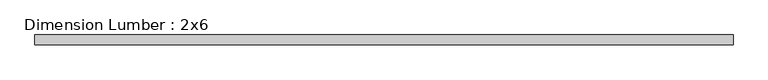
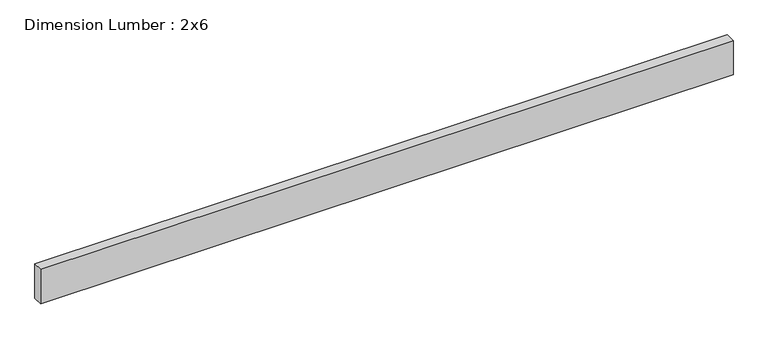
"""IFC4 building model written with IfcOpenShell, lengths in millimetres: beam geometry, Dimension Lumber : 2x6."""

import ifcopenshell
import ifcopenshell.guid

model = None  # the IFC model being written
_history = None  # IfcOwnerHistory: only IFC2X3 demands one
_inside = {}  # id of a spatial element -> (the spatial element, [elements in it])
_under = {}  # id of a project, library or spatial element -> (it, [spatial elements below it])
_declared = {}  # id of a project -> (the project, [libraries it declares])
_typed = {}  # id of a type object -> (the type object, [elements of that type])
_made_of = {}  # id of a material, layer set ... -> (it, [elements and type objects made of it])


def new_model(schema):
    """Start an empty IFC model of exactly this schema.

    Asked for "IFC4X3", IfcOpenShell would pick the latest addendum, in which some entities
    have other attributes; the version numbers below select the first issue.
    IFC2X3 requires an IfcOwnerHistory on every rooted entity: one is made here for all.
    """
    global model, _history
    if schema == "IFC4X3":
        model = ifcopenshell.file(schema_version=(4, 3, 0, 0))
    else:
        model = ifcopenshell.file(schema=schema)
    _inside.clear()
    _under.clear()
    _declared.clear()
    _typed.clear()
    _made_of.clear()
    _history = None
    if model.schema == "IFC2X3":
        org = make("IfcOrganization", Name="unknown")
        user = make(
            "IfcPersonAndOrganization",
            ThePerson=make("IfcPerson", FamilyName="unknown"),
            TheOrganization=org,
        )
        app = make(
            "IfcApplication",
            ApplicationDeveloper=org,
            Version="unknown",
            ApplicationFullName="unknown",
            ApplicationIdentifier="unknown",
        )
        _history = make(
            "IfcOwnerHistory",
            OwningUser=user,
            OwningApplication=app,
            ChangeAction="ADDED",
            CreationDate=0,
        )
    return model


def make(cls, **values):
    """One entity of the class cls with the attributes given. An attribute that is None is left unset."""
    return model.create_entity(
        cls, **{name: value for name, value in values.items() if value is not None}
    )


def rooted(cls, **values):
    """An entity with a GlobalId (a new one), such as an element, a storey or a relation."""
    return make(cls, GlobalId=ifcopenshell.guid.new(), OwnerHistory=_history, **values)


def si_unit(unit_type, name, prefix=None):
    """IfcSIUnit, for example si_unit("LENGTHUNIT", "METRE", prefix="MILLI")."""
    return make("IfcSIUnit", UnitType=unit_type, Prefix=prefix, Name=name)


def assignment(units):
    """IfcUnitAssignment: the units of a project."""
    return None if units is None else make("IfcUnitAssignment", Units=units)


def point(xyz):
    """IfcCartesianPoint."""
    return None if xyz is None else make("IfcCartesianPoint", Coordinates=xyz)


def direction(xyz):
    """IfcDirection."""
    return None if xyz is None else make("IfcDirection", DirectionRatios=xyz)


def frame(location, z_axis=None, x_axis=None):
    """IfcAxis2Placement3D, a coordinate frame: its origin and axes. An axis left out is left unset."""
    return make(
        "IfcAxis2Placement3D",
        Location=point(location),
        Axis=direction(z_axis),
        RefDirection=direction(x_axis),
    )


def origin():
    """The frame at (0, 0, 0) with its axes left unset."""
    return frame((0.0, 0.0, 0.0))


def place(relative_to, where):
    """IfcLocalPlacement: puts the frame where relative to a parent placement (None: the world)."""
    return make(
        "IfcLocalPlacement", PlacementRelTo=relative_to, RelativePlacement=where
    )


def context(
    kind, dimensions, precision=None, world=None, true_north=None, identifier=None
):
    """IfcGeometricRepresentationContext, for example the 3D "Model" context."""
    return make(
        "IfcGeometricRepresentationContext",
        ContextIdentifier=identifier,
        ContextType=kind,
        CoordinateSpaceDimension=dimensions,
        Precision=precision,
        WorldCoordinateSystem=world,
        TrueNorth=true_north,
    )


def project(units=None, contexts=None):
    """IfcProject with its units and contexts."""
    return rooted(
        "IfcProject",
        Name="project",
        RepresentationContexts=contexts,
        UnitsInContext=assignment(units),
    )


def spatial(cls, under=None, at=None, **own):
    """A site, building, storey or space (cls), placed at a placement, below another one or the project."""
    s = rooted(cls, ObjectPlacement=at, **own)
    if under is not None:
        _under.setdefault(under.id(), (under, []))[1].append(s)
    return s


def polyline(points):
    """IfcPolyline through the points."""
    return make("IfcPolyline", Points=[point(p) for p in points])


def outline(outer, holes=None, kind="AREA"):
    """IfcArbitraryClosedProfileDef: a profile drawn as a closed curve; with holes, ...WithVoids."""
    if holes is None:
        return make("IfcArbitraryClosedProfileDef", ProfileType=kind, OuterCurve=outer)
    return make(
        "IfcArbitraryProfileDefWithVoids",
        ProfileType=kind,
        OuterCurve=outer,
        InnerCurves=holes,
    )


def extrude(swept, where, along, depth):
    """IfcExtrudedAreaSolid: the profile swept, set in the frame where, extruded along a direction by depth."""
    return make(
        "IfcExtrudedAreaSolid",
        SweptArea=swept,
        Position=where,
        ExtrudedDirection=direction(along),
        Depth=depth,
    )


def shape(context_of_items, identifier, shape_type, items):
    """IfcShapeRepresentation: the items that make up one representation, for example the "Body"."""
    return make(
        "IfcShapeRepresentation",
        ContextOfItems=context_of_items,
        RepresentationIdentifier=identifier,
        RepresentationType=shape_type,
        Items=items,
    )


def source(mapping_origin, context_of_items, identifier, shape_type, items):
    """IfcRepresentationMap: a shape defined once, which mapped items show again and again."""
    return make(
        "IfcRepresentationMap",
        MappingOrigin=mapping_origin,
        MappedRepresentation=shape(context_of_items, identifier, shape_type, items),
    )


def transform(
    local_origin,
    x_axis=None,
    y_axis=None,
    z_axis=None,
    scale=None,
    scale2=None,
    scale3=None,
    uniform=True,
):
    """IfcCartesianTransformationOperator3D, or its non-uniform kind. x_axis, y_axis, z_axis: its Axis1, 2, 3."""
    if uniform:
        return make(
            "IfcCartesianTransformationOperator3D",
            Axis1=direction(x_axis),
            Axis2=direction(y_axis),
            LocalOrigin=point(local_origin),
            Scale=scale,
            Axis3=direction(z_axis),
        )
    return make(
        "IfcCartesianTransformationOperator3DnonUniform",
        Axis1=direction(x_axis),
        Axis2=direction(y_axis),
        LocalOrigin=point(local_origin),
        Scale=scale,
        Axis3=direction(z_axis),
        Scale2=scale2,
        Scale3=scale3,
    )


def mapped(mapping_source, mapping_target):
    """IfcMappedItem: shows the shape of a source again, moved by a transform."""
    return make(
        "IfcMappedItem", MappingSource=mapping_source, MappingTarget=mapping_target
    )


def made_of(thing, what):
    """Note that an element or type object is made of a material, layer set ...; save() writes the relation."""
    if what is not None:
        _made_of.setdefault(what.id(), (what, []))[1].append(thing)
    return thing


def element(
    cls,
    number,
    at=None,
    inside=None,
    cuts=None,
    type_object=None,
    material=None,
    context=None,
    identifier="Body",
    shape_type=None,
    held_by="IfcProductDefinitionShape",
    body=None,
    shapes=None,
    **own,
):
    """One element of the class cls, such as IfcWall. Its Tag is "e" and its number.

    at: its placement. inside: the storey or other place that contains it. cuts: it is an
    opening in that element (IfcRelVoidsElement). A single representation is given by context,
    identifier, shape_type and body (its items); several are given by shapes. held_by: the class
    of the entity that holds the representations. save() writes the other relations.
    """
    e = rooted(cls, Tag="e%d" % number, ObjectPlacement=at, **own)
    if body is not None:
        shapes = [shape(context, identifier, shape_type, body)]
    if shapes is not None:
        e.Representation = make(held_by, Representations=shapes)
    if inside is not None:
        _inside.setdefault(inside.id(), (inside, []))[1].append(e)
    if cuts is not None:
        rooted(
            "IfcRelVoidsElement", RelatingBuildingElement=cuts, RelatedOpeningElement=e
        )
    if type_object is not None:
        _typed.setdefault(type_object.id(), (type_object, []))[1].append(e)
    return made_of(e, material)


def aggregate(whole, parts):
    """IfcRelAggregates: a whole, such as a stair, and the parts it consists of."""
    return rooted("IfcRelAggregates", RelatingObject=whole, RelatedObjects=parts)


def save(model, path):
    """Write the relations noted so far, then the file.

    IfcRelAggregates (storeys below a building ...), IfcRelContainedInSpatialStructure (elements
    in a storey), IfcRelDefinesByType, IfcRelAssociatesMaterial and IfcRelDeclares: one each for
    every whole, place, type object, material and project.
    """
    for whole, parts in _under.values():
        aggregate(whole, parts)
    for where, things in _inside.values():
        rooted(
            "IfcRelContainedInSpatialStructure",
            RelatedElements=things,
            RelatingStructure=where,
        )
    for kind, things in _typed.values():
        rooted("IfcRelDefinesByType", RelatedObjects=things, RelatingType=kind)
    for what, things in _made_of.values():
        rooted("IfcRelAssociatesMaterial", RelatedObjects=things, RelatingMaterial=what)
    for by, libraries in _declared.values():
        rooted("IfcRelDeclares", RelatingContext=by, RelatedDefinitions=libraries)
    model.write(path)


def dimension_lumber_2x6_a165007b(model_context):
    return source(origin(), model_context, "Body", "SweptSolid", [
        extrude(outline(polyline([(1333.5, -19.05), (-1333.5, -19.05), (-1333.5, 19.05), (1333.5, 19.05), (1333.5, -19.05)])), frame((0.0, 0.0, -69.85), z_axis=(0.0, 0.0, 1.0), x_axis=(1.0, 0.0, 0.0)), (0.0, 0.0, 1.0), 139.7),
    ])


if __name__ == "__main__":
    model = new_model("IFC4")
    model_context = context("Model", 3, world=origin())
    ifc_project = project(units=[si_unit("LENGTHUNIT", "METRE", prefix="MILLI")], contexts=[model_context])
    site = spatial("IfcSite", under=ifc_project)
    building = spatial("IfcBuilding", under=site)
    placement = place(None, origin())
    dimension_lumber_2x6_shape = dimension_lumber_2x6_a165007b(model_context)
    element("IfcBeam", 1, ObjectType="Dimension Lumber : 2x6", at=placement, inside=building, context=model_context, shape_type="MappedRepresentation", body=[
        mapped(dimension_lumber_2x6_shape, transform((0.0, 0.0, 0.0), x_axis=(1.0, 0.0, 0.0), y_axis=(0.0, 1.0, 0.0), z_axis=(0.0, 0.0, 1.0))),
    ])
    save(model, "model.ifc")
